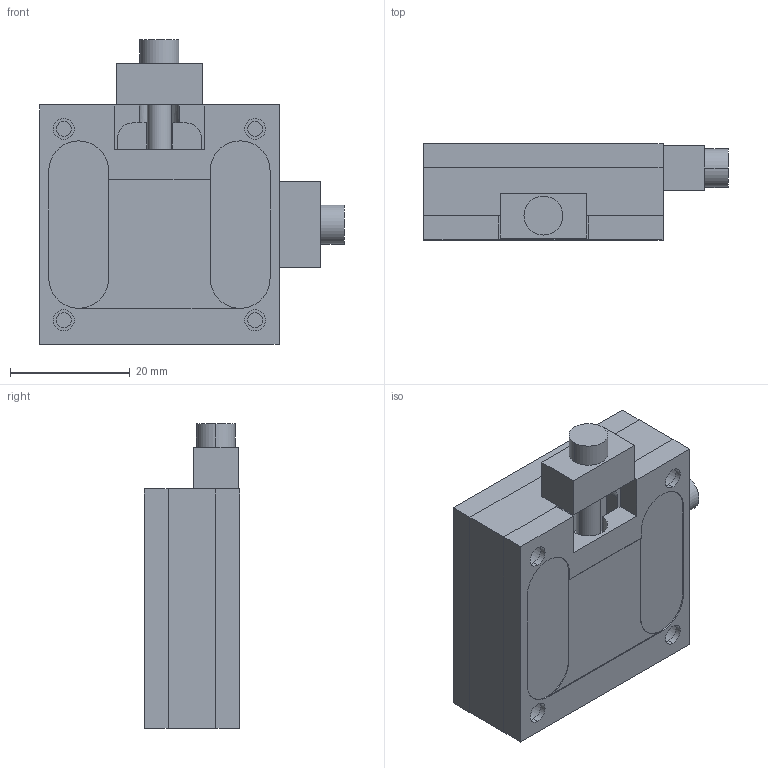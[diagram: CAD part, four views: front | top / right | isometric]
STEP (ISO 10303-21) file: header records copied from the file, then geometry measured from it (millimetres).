
FILE_DESCRIPTION (( 'STEP AP203' ), '1' );
FILE_NAME ('LD-T4052FX_ver3.STEP', '2017-02-28T05:10:24', ( '' ), ( '' ), 'SwSTEP 2.0', 'SolidWorks 2016', '' );
FILE_SCHEMA (( 'CONFIG_CONTROL_DESIGN' ));
Length unit declared in the file: millimetre
Products named in the file (4): LD-T4052FX_ver3-1; LD-T4052FX_ver3-2; LD-T4052FX_ver3-3; LD-T4052FX_ver3
Assembly tree (3 placements, depth 2):
  LD-T4052FX_ver3
    LD-T4052FX_ver3-1
    LD-T4052FX_ver3-2
    LD-T4052FX_ver3-3
Bounding box: 50.9 x 16 x 50.9 mm (x, y, z)
Volume: 23765.6 mm3; surface area: 17642.6 mm2
Topology: 3 solids, 8 shells, 259 faces, 612 edges, 400 vertices
Faces by surface type: cylinder 120, plane 115, cone 8, sphere 8, torus 8
Entity records: 8006 total; most frequent: DIRECTION 1434, CARTESIAN_POINT 1277, ORIENTED_EDGE 1224, EDGE_CURVE 612, AXIS2_PLACEMENT_3D 557, VERTEX_POINT 400, VECTOR 320, LINE 320
